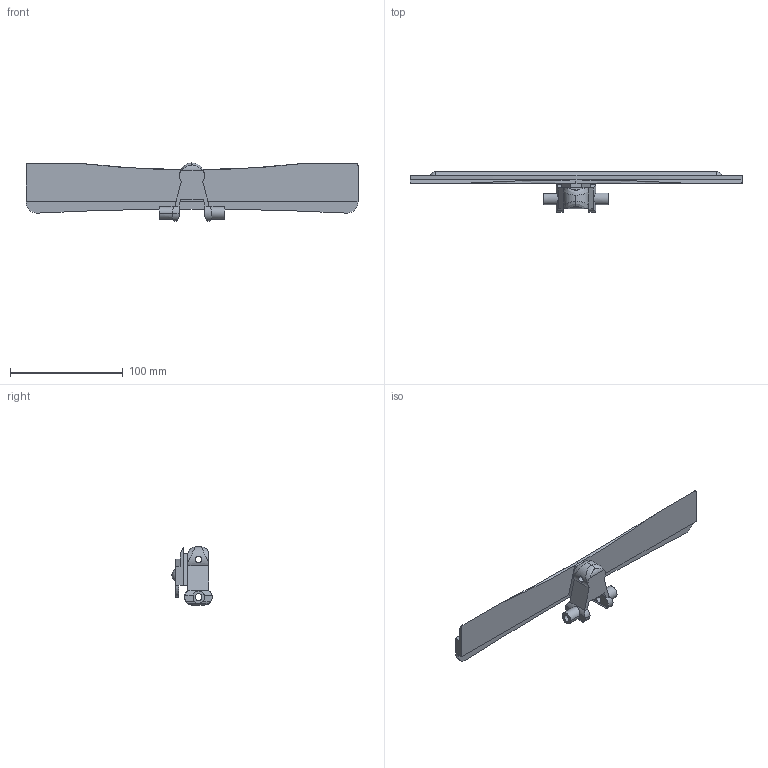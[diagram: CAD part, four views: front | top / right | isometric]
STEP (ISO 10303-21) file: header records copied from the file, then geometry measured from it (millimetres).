
FILE_DESCRIPTION (( 'STEP AP203' ), '1' );
FILE_NAME ('FBTP 3A295AF.step', '2016-10-27T02:45:56', ( 'admin' ), ( '' ), 'SwSTEP 2.0', 'SolidWorks 2014', '' );
FILE_SCHEMA (( 'CONFIG_CONTROL_DESIGN' ));
Length unit declared in the file: millimetre
Products named in the file (1): FBTP 3A295AF
Bounding box: 295 x 35.74 x 51.6 mm (x, y, z)
Volume: 83598.7 mm3; surface area: 34365.5 mm2
Topology: 1 solids, 1 shells, 85 faces, 245 edges, 161 vertices
Faces by surface type: cylinder 42, plane 38, bspline 3, torus 2
Entity records: 4359 total; most frequent: CARTESIAN_POINT 2136, ORIENTED_EDGE 490, DIRECTION 398, EDGE_CURVE 245, VERTEX_POINT 161, AXIS2_PLACEMENT_3D 140, VECTOR 118, LINE 118
